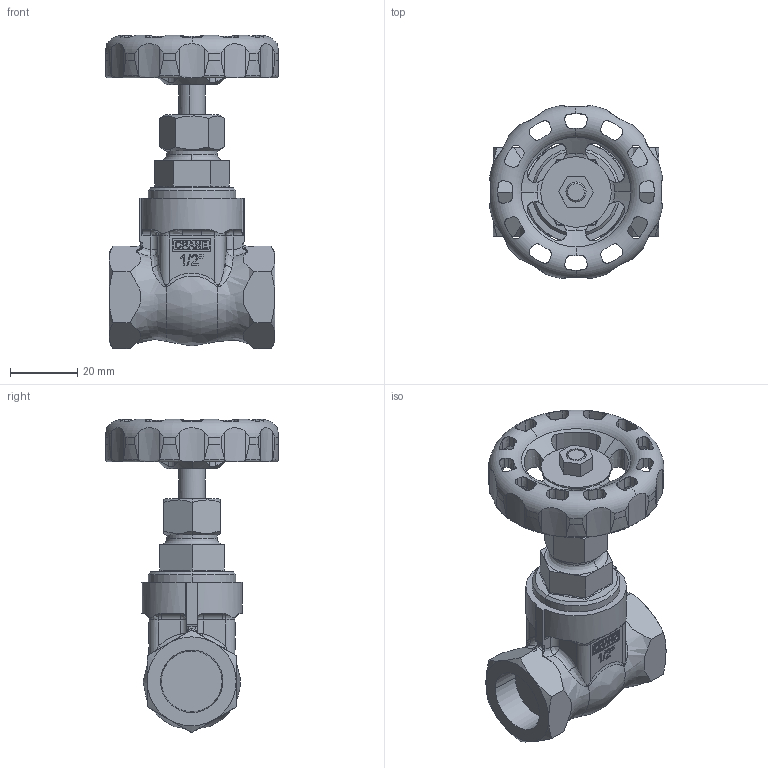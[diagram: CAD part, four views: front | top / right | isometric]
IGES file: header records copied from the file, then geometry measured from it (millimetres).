
Global section: file name: No Iges File Name specified; native system: AutoDesk Inventor R12.0; preprocessor: AutoDesk Inventor Iges Exporter R12.0; date: 20110311.093154; units: millimetre
Bounding box: 51.5 x 51.5 x 93.41 mm (x, y, z)
Volume: 55045.9 mm3; surface area: 19725.9 mm2
Topology: 1 solids, 1 shells, 741 faces, 2058 edges, 1326 vertices
Faces by surface type: plane 316, bspline 188, revolution 133, cylinder 68, cone 30, torus 6
